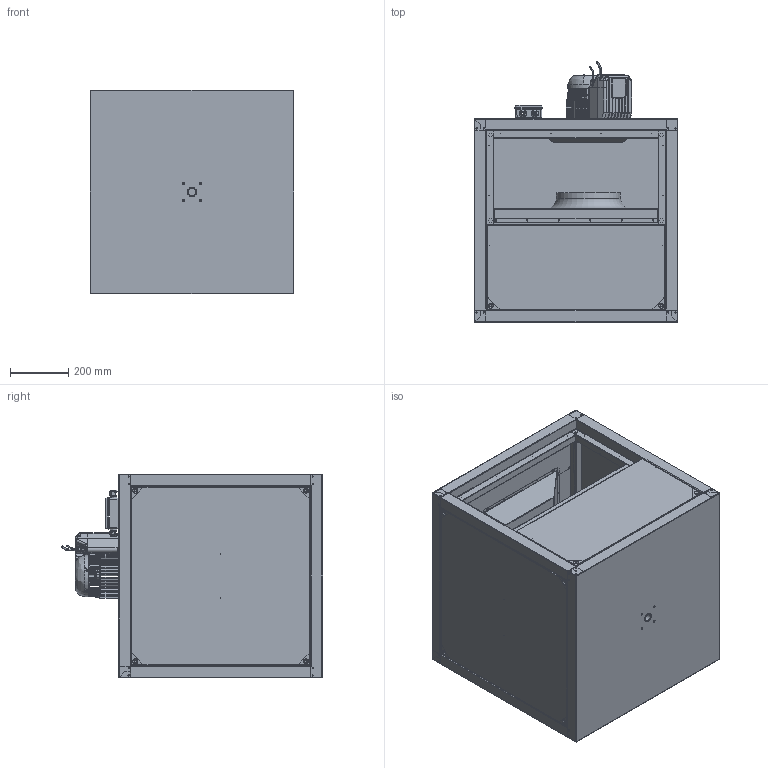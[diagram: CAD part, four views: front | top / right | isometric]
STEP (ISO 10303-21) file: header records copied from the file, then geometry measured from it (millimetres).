
FILE_DESCRIPTION (( 'STEP AP203' ), '1' );
FILE_NAME ('149343-00_MPC355ECTI30_step.step', '2018-10-29T07:09:37', ( '' ), ( '' ), 'SwSTEP 2.0', 'SolidWorks 2017', '' );
FILE_SCHEMA (( 'CONFIG_CONTROL_DESIGN' ));
Products named in the file (1): 149343-00_MPC355ECTI30_step
Bounding box: 700 x 896.85 x 700 mm (x, y, z)
Surface area: 7368484.2 mm2 (no closed solid volume)
Topology: 0 solids, 350 shells, 2285 faces, 10362 edges, 8186 vertices
Faces by surface type: plane 840, cylinder 685, bspline 426, cone 184, torus 150
Entity records: 130360 total; most frequent: CARTESIAN_POINT 51650, DIRECTION 15696, ORIENTED_EDGE 13551, EDGE_CURVE 10347, VERTEX_POINT 8186, AXIS2_PLACEMENT_3D 5624, LINE 4448, VECTOR 4448
